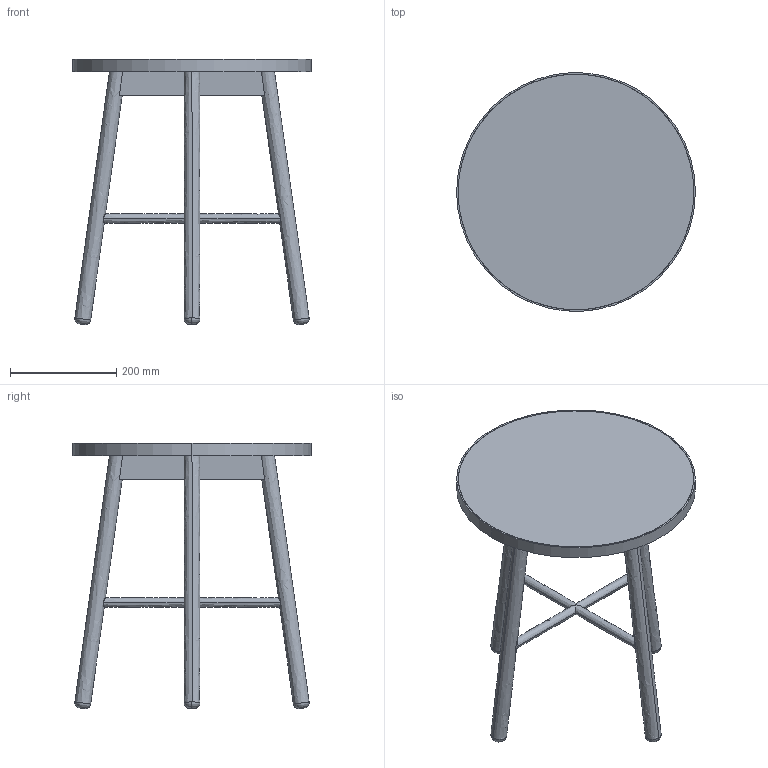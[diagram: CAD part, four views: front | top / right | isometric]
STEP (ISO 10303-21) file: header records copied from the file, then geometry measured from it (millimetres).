
FILE_DESCRIPTION(/* description */ (''),/* implementation_level */ '2;1');
FILE_NAME(/* name */ 'K99TDW~V',/* time_stamp */ '2020-06-18T17:11:34+09:00',/* author */ (''),/* organization */ (''),/* preprocessor_version */ 'ST-DEVELOPER v15',/* originating_system */ '',/* authorisation */ '');
FILE_SCHEMA (('AUTOMOTIVE_DESIGN'));
Length unit declared in the file: millimetre
Products named in the file (1): Document
Bounding box: 450 x 449.57 x 499.99 mm (x, y, z)
Volume: 5699640.2 mm3; surface area: 714427.4 mm2
Topology: 9 solids, 9 shells, 74 faces, 154 edges, 98 vertices
Faces by surface type: bspline 46, plane 28
Entity records: 3107 total; most frequent: CARTESIAN_POINT 2114, ORIENTED_EDGE 308, EDGE_CURVE 154, VERTEX_POINT 98, B_SPLINE_CURVE_WITH_KNOTS 80, EDGE_LOOP 76, ADVANCED_FACE 74, FACE_OUTER_BOUND 74
